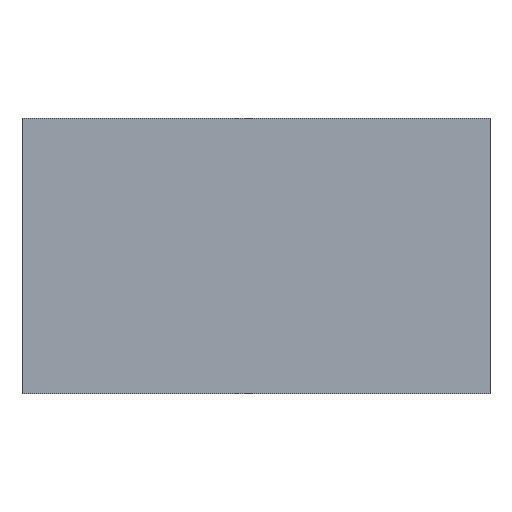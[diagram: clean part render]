
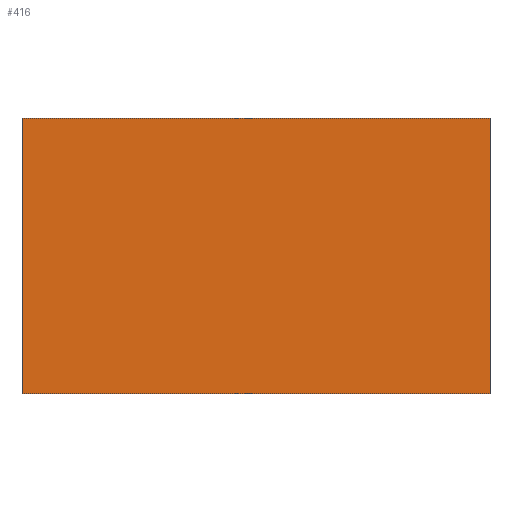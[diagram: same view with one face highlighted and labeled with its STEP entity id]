
A CAD part, top view. The second image highlights one B-rep face of the part: STEP entity #416.
In plain terms, the highlighted planar face has unit normal (0, 0, 1).
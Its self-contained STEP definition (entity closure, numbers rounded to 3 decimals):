
#416=ADVANCED_FACE('',(#711),#713,.T.);
#711=FACE_BOUND('',#712,.T.);
#712=EDGE_LOOP('',(#1084,#1085,#1086,#1087));
#713=PLANE('',#714);
#714=AXIS2_PLACEMENT_3D('',#715,#716,#717);
#715=CARTESIAN_POINT('',(0.,0.,0.345));
#716=DIRECTION('',(0.,0.,1.));
#717=DIRECTION('',(-1.,0.,0.));
#1084=ORIENTED_EDGE('',*,*,#1318,.T.);
#1085=ORIENTED_EDGE('',*,*,#1316,.T.);
#1086=ORIENTED_EDGE('',*,*,#1314,.T.);
#1087=ORIENTED_EDGE('',*,*,#1312,.T.);
#1312=EDGE_CURVE('',#1550,#1548,#1551,.T.);
#1314=EDGE_CURVE('',#1553,#1550,#1554,.T.);
#1316=EDGE_CURVE('',#1556,#1553,#1557,.T.);
#1318=EDGE_CURVE('',#1548,#1556,#1559,.T.);
#1548=VERTEX_POINT('',#1871);
#1550=VERTEX_POINT('',#1875);
#1551=LINE('',#1876,#1877);
#1553=VERTEX_POINT('',#1882);
#1554=LINE('',#1883,#1884);
#1556=VERTEX_POINT('',#1889);
#1557=LINE('',#1890,#1891);
#1559=LINE('',#1896,#1897);
#1871=CARTESIAN_POINT('',(-0.595,0.35,0.345));
#1875=CARTESIAN_POINT('',(0.595,0.35,0.345));
#1876=CARTESIAN_POINT('',(0.595,0.35,0.345));
#1877=VECTOR('',#1878,1.);
#1878=DIRECTION('',(-1.,0.,0.));
#1882=CARTESIAN_POINT('',(0.595,-0.35,0.345));
#1883=CARTESIAN_POINT('',(0.595,-0.35,0.345));
#1884=VECTOR('',#1885,1.);
#1885=DIRECTION('',(0.,1.,0.));
#1889=CARTESIAN_POINT('',(-0.595,-0.35,0.345));
#1890=CARTESIAN_POINT('',(-0.595,-0.35,0.345));
#1891=VECTOR('',#1892,1.);
#1892=DIRECTION('',(1.,0.,0.));
#1896=CARTESIAN_POINT('',(-0.595,0.35,0.345));
#1897=VECTOR('',#1898,1.);
#1898=DIRECTION('',(0.,-1.,0.));
